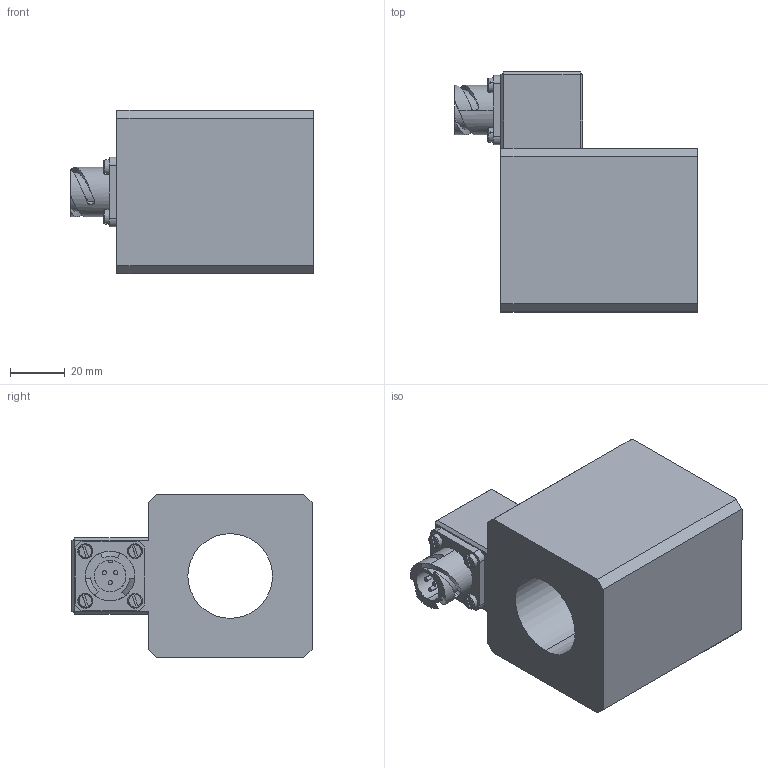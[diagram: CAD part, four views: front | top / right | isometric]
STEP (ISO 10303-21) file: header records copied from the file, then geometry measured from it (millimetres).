
FILE_DESCRIPTION (( 'STEP AP214' ), '1' );
FILE_NAME ('MBS60_31x72-DC.STEP', '2015-07-17T07:43:02', ( '' ), ( '' ), 'SwSTEP 2.0', 'SolidWorks 2014', '' );
FILE_SCHEMA (( 'AUTOMOTIVE_DESIGN' ));
Length unit declared in the file: millimetre
Products named in the file (2): MBS60_31x72-DC
Bounding box: 89 x 88 x 60 mm (x, y, z)
Volume: 238255.3 mm3; surface area: 42260.9 mm2
Topology: 6 solids, 10 shells, 311 faces, 770 edges, 485 vertices
Faces by surface type: plane 146, cylinder 88, cone 42, torus 26, bspline 9
Entity records: 13296 total; most frequent: CARTESIAN_POINT 2449, DIRECTION 1569, ORIENTED_EDGE 1520, EDGE_CURVE 760, AXIS2_PLACEMENT_3D 609, VERTEX_POINT 485, LINE 351, VECTOR 351
